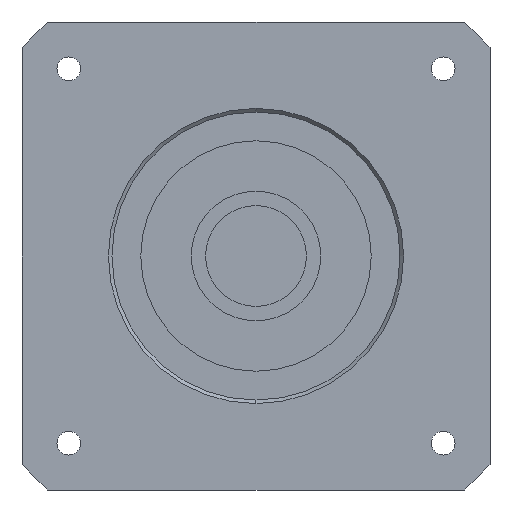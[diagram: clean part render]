
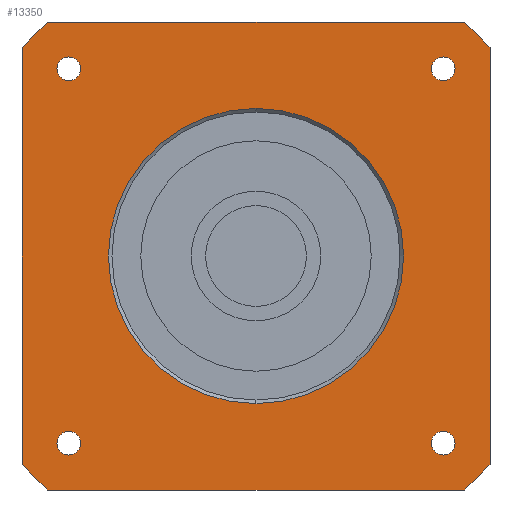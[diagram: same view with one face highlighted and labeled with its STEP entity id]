
A CAD part, left-side view. The second image highlights one B-rep face of the part: STEP entity #13350.
In plain terms, the highlighted planar face has unit normal (-1, 0, 0) as drawn and (0, 0, -1) by its records, which use the part's own axes.
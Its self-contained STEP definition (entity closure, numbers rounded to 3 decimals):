
#8680=CARTESIAN_POINT('',(26.,-24.35,-35.));
#8690=VERTEX_POINT('',#8680);
#8870=CARTESIAN_POINT('',(26.,-27.65,-35.));
#8880=VERTEX_POINT('',#8870);
#8910=CARTESIAN_POINT('',(26.,-26.,-35.));
#8920=DIRECTION('',(0.,0.,-1.));
#8930=DIRECTION('',(1.,0.,0.));
#8940=AXIS2_PLACEMENT_3D('',#8910,#8920,#8930);
#8950=CIRCLE('',#8940,1.65);
#8960=CARTESIAN_POINT('',(27.65,-26.,-35.));
#8970=VERTEX_POINT('',#8960);
#8980=EDGE_CURVE('',#8970,#8880,#8950,.T.);
#9000=EDGE_CURVE('',#8690,#8970,#8950,.T.);
#9140=CARTESIAN_POINT('',(26.,27.65,-35.));
#9150=VERTEX_POINT('',#9140);
#9330=CARTESIAN_POINT('',(26.,24.35,-35.));
#9340=VERTEX_POINT('',#9330);
#9370=CARTESIAN_POINT('',(26.,26.,-35.));
#9380=DIRECTION('',(0.,0.,-1.));
#9390=DIRECTION('',(1.,0.,0.));
#9400=AXIS2_PLACEMENT_3D('',#9370,#9380,#9390);
#9410=CIRCLE('',#9400,1.65);
#9420=CARTESIAN_POINT('',(27.65,26.,-35.));
#9430=VERTEX_POINT('',#9420);
#9440=EDGE_CURVE('',#9430,#9340,#9410,.T.);
#9460=EDGE_CURVE('',#9150,#9430,#9410,.T.);
#11820=CARTESIAN_POINT('',(0.,-20.5,-35.));
#11830=VERTEX_POINT('',#11820);
#11860=CARTESIAN_POINT('',(0.,0.,-35.));
#11870=DIRECTION('',(0.,0.,1.));
#11880=DIRECTION('',(0.,1.,0.));
#11890=AXIS2_PLACEMENT_3D('',#11860,#11870,#11880);
#11900=CIRCLE('',#11890,20.5);
#11910=CARTESIAN_POINT('',(0.,20.5,-35.));
#11920=VERTEX_POINT('',#11910);
#11930=EDGE_CURVE('',#11830,#11920,#11900,.T.);
#12050=CARTESIAN_POINT('',(32.5,32.5,-35.));
#12060=DIRECTION('',(0.,0.,1.));
#12070=DIRECTION('',(0.,1.,0.));
#12080=AXIS2_PLACEMENT_3D('',#12050,#12060,#12070);
#12090=PLANE('',#12080);
#12100=CARTESIAN_POINT('',(-26.,-26.,-35.));
#12110=DIRECTION('',(0.,0.,-1.));
#12120=DIRECTION('',(1.,0.,0.));
#12130=AXIS2_PLACEMENT_3D('',#12100,#12110,#12120);
#12140=CIRCLE('',#12130,1.65);
#12150=CARTESIAN_POINT('',(-24.35,-26.,-35.));
#12160=VERTEX_POINT('',#12150);
#12170=CARTESIAN_POINT('',(-26.,-27.65,-35.));
#12180=VERTEX_POINT('',#12170);
#12190=EDGE_CURVE('',#12160,#12180,#12140,.T.);
#12200=ORIENTED_EDGE('',*,*,#12190,.F.);
#12210=CARTESIAN_POINT('',(-26.,-24.35,-35.));
#12220=VERTEX_POINT('',#12210);
#12230=EDGE_CURVE('',#12180,#12220,#12140,.T.);
#12240=ORIENTED_EDGE('',*,*,#12230,.F.);
#12250=EDGE_CURVE('',#12220,#12160,#12140,.T.);
#12260=ORIENTED_EDGE('',*,*,#12250,.F.);
#12270=EDGE_LOOP('',(#12260,#12240,#12200));
#12280=FACE_BOUND('',#12270,.T.);
#12290=CARTESIAN_POINT('',(-26.,26.,-35.));
#12300=DIRECTION('',(0.,0.,-1.));
#12310=DIRECTION('',(1.,0.,0.));
#12320=AXIS2_PLACEMENT_3D('',#12290,#12300,#12310);
#12330=CIRCLE('',#12320,1.65);
#12340=CARTESIAN_POINT('',(-24.35,26.,-35.));
#12350=VERTEX_POINT('',#12340);
#12360=CARTESIAN_POINT('',(-26.,24.35,-35.));
#12370=VERTEX_POINT('',#12360);
#12380=EDGE_CURVE('',#12350,#12370,#12330,.T.);
#12390=ORIENTED_EDGE('',*,*,#12380,.F.);
#12400=CARTESIAN_POINT('',(-26.,27.65,-35.));
#12410=VERTEX_POINT('',#12400);
#12420=EDGE_CURVE('',#12370,#12410,#12330,.T.);
#12430=ORIENTED_EDGE('',*,*,#12420,.F.);
#12440=EDGE_CURVE('',#12410,#12350,#12330,.T.);
#12450=ORIENTED_EDGE('',*,*,#12440,.F.);
#12460=EDGE_LOOP('',(#12450,#12430,#12390));
#12470=FACE_BOUND('',#12460,.T.);
#12480=ORIENTED_EDGE('',*,*,#9440,.F.);
#12490=EDGE_CURVE('',#9340,#9150,#9410,.T.);
#12500=ORIENTED_EDGE('',*,*,#12490,.F.);
#12510=ORIENTED_EDGE('',*,*,#9460,.F.);
#12520=EDGE_LOOP('',(#12510,#12500,#12480));
#12530=FACE_BOUND('',#12520,.T.);
#12540=ORIENTED_EDGE('',*,*,#8980,.F.);
#12550=EDGE_CURVE('',#8880,#8690,#8950,.T.);
#12560=ORIENTED_EDGE('',*,*,#12550,.F.);
#12570=ORIENTED_EDGE('',*,*,#9000,.F.);
#12580=EDGE_LOOP('',(#12570,#12560,#12540));
#12590=FACE_BOUND('',#12580,.T.);
#12600=EDGE_CURVE('',#11920,#11830,#11900,.T.);
#12610=ORIENTED_EDGE('',*,*,#12600,.T.);
#12620=ORIENTED_EDGE('',*,*,#11930,.T.);
#12630=EDGE_LOOP('',(#12620,#12610));
#12640=FACE_BOUND('',#12630,.T.);
#12650=CARTESIAN_POINT('',(-32.5,32.5,-35.));
#12660=DIRECTION('',(0.,-1.,0.));
#12670=VECTOR('',#12660,1000.);
#12680=LINE('',#12650,#12670);
#12690=CARTESIAN_POINT('',(-32.5,28.914,-35.));
#12700=VERTEX_POINT('',#12690);
#12710=CARTESIAN_POINT('',(-32.5,-28.914,-35.));
#12720=VERTEX_POINT('',#12710);
#12730=EDGE_CURVE('',#12700,#12720,#12680,.T.);
#12740=ORIENTED_EDGE('',*,*,#12730,.F.);
#12750=CARTESIAN_POINT('',(0.,0.,
-35.));
#12760=DIRECTION('',(0.,0.,-1.));
#12770=DIRECTION('',(-1.,0.,0.));
#12780=AXIS2_PLACEMENT_3D('',#12750,#12760,#12770);
#12790=CIRCLE('',#12780,43.5);
#12800=CARTESIAN_POINT('',(-28.914,-32.5,-35.));
#12810=VERTEX_POINT('',#12800);
#12820=EDGE_CURVE('',#12810,#12720,#12790,.T.);
#12830=ORIENTED_EDGE('',*,*,#12820,.T.);
#12840=CARTESIAN_POINT('',(-32.5,-32.5,-35.));
#12850=DIRECTION('',(1.,0.,0.));
#12860=VECTOR('',#12850,1000.);
#12870=LINE('',#12840,#12860);
#12880=CARTESIAN_POINT('',(28.914,-32.5,-35.));
#12890=VERTEX_POINT('',#12880);
#12900=EDGE_CURVE('',#12810,#12890,#12870,.T.);
#12910=ORIENTED_EDGE('',*,*,#12900,.F.);
#12920=CARTESIAN_POINT('',(0.,0.,
-35.));
#12930=DIRECTION('',(0.,0.,-1.));
#12940=DIRECTION('',(-1.,0.,0.));
#12950=AXIS2_PLACEMENT_3D('',#12920,#12930,#12940);
#12960=CIRCLE('',#12950,43.5);
#12970=CARTESIAN_POINT('',(32.5,-28.914,-35.));
#12980=VERTEX_POINT('',#12970);
#12990=EDGE_CURVE('',#12980,#12890,#12960,.T.);
#13000=ORIENTED_EDGE('',*,*,#12990,.T.);
#13010=CARTESIAN_POINT('',(32.5,-32.5,-35.));
#13020=DIRECTION('',(0.,1.,0.));
#13030=VECTOR('',#13020,1000.);
#13040=LINE('',#13010,#13030);
#13050=CARTESIAN_POINT('',(32.5,28.914,-35.));
#13060=VERTEX_POINT('',#13050);
#13070=EDGE_CURVE('',#12980,#13060,#13040,.T.);
#13080=ORIENTED_EDGE('',*,*,#13070,.F.);
#13090=CARTESIAN_POINT('',(0.,0.,
-35.));
#13100=DIRECTION('',(0.,0.,-1.));
#13110=DIRECTION('',(-1.,0.,0.));
#13120=AXIS2_PLACEMENT_3D('',#13090,#13100,#13110);
#13130=CIRCLE('',#13120,43.5);
#13140=CARTESIAN_POINT('',(28.914,32.5,-35.));
#13150=VERTEX_POINT('',#13140);
#13160=EDGE_CURVE('',#13150,#13060,#13130,.T.);
#13170=ORIENTED_EDGE('',*,*,#13160,.T.);
#13180=CARTESIAN_POINT('',(32.5,32.5,-35.));
#13190=DIRECTION('',(-1.,0.,0.));
#13200=VECTOR('',#13190,1000.);
#13210=LINE('',#13180,#13200);
#13220=CARTESIAN_POINT('',(-28.914,32.5,-35.));
#13230=VERTEX_POINT('',#13220);
#13240=EDGE_CURVE('',#13150,#13230,#13210,.T.);
#13250=ORIENTED_EDGE('',*,*,#13240,.F.);
#13260=CARTESIAN_POINT('',(0.,0.,
-35.));
#13270=DIRECTION('',(0.,0.,-1.));
#13280=DIRECTION('',(-1.,0.,0.));
#13290=AXIS2_PLACEMENT_3D('',#13260,#13270,#13280);
#13300=CIRCLE('',#13290,43.5);
#13310=EDGE_CURVE('',#12700,#13230,#13300,.T.);
#13320=ORIENTED_EDGE('',*,*,#13310,.T.);
#13330=EDGE_LOOP('',(#13320,#13250,#13170,#13080,#13000,#12910,#12830,
#12740));
#13340=FACE_OUTER_BOUND('',#13330,.T.);
#13350=ADVANCED_FACE('',(#12280,#12470,#12530,#12590,#12640,#13340),
#12090,.F.);
